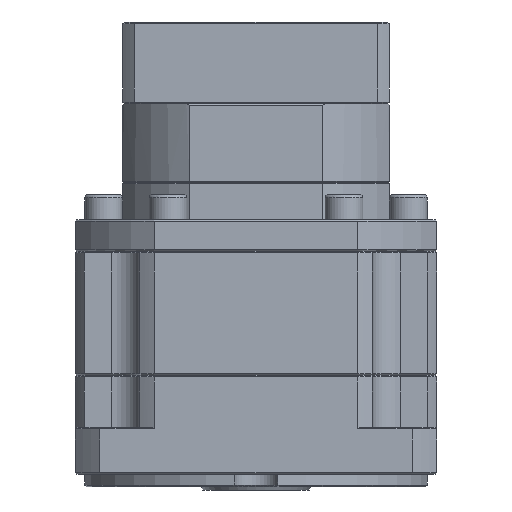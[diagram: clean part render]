
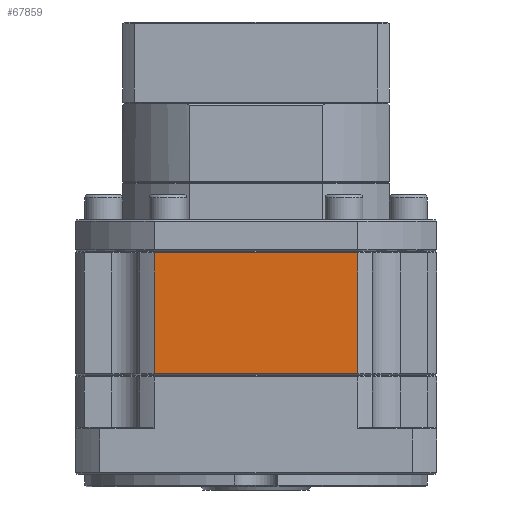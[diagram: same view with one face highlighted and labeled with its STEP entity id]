
A CAD part, left-side view. The second image highlights one B-rep face of the part: STEP entity #67859.
In plain terms, the highlighted planar face has unit normal (-1, 0, 0).
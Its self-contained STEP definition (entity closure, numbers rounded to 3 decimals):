
#1274 = VECTOR ( 'NONE', #113950, 1000. ) ;
#7363 = DIRECTION ( 'NONE',  ( 1., 0., 0. ) ) ;
#9672 = EDGE_CURVE ( 'NONE', #23211, #68918, #112334, .T. ) ;
#15366 = VERTEX_POINT ( 'NONE', #61986 ) ;
#16377 = VERTEX_POINT ( 'NONE', #24470 ) ;
#18638 = VECTOR ( 'NONE', #40380, 1000. ) ;
#19177 = CARTESIAN_POINT ( 'NONE',  ( -4.669, 44.285, -77.248 ) ) ;
#20134 = VECTOR ( 'NONE', #69648, 1000. ) ;
#21175 = CARTESIAN_POINT ( 'NONE',  ( -4.669, 44.285, -116.248 ) ) ;
#21302 = AXIS2_PLACEMENT_3D ( 'NONE', #130921, #7363, #108132 ) ;
#23211 = VERTEX_POINT ( 'NONE', #21175 ) ;
#24470 = CARTESIAN_POINT ( 'NONE',  ( -4.669, 44.285, -77.748 ) ) ;
#25203 = VECTOR ( 'NONE', #92561, 1000. ) ;
#40380 = DIRECTION ( 'NONE',  ( 0., -1., 0. ) ) ;
#51306 = EDGE_CURVE ( 'NONE', #68918, #15366, #132627, .T. ) ;
#57451 = CARTESIAN_POINT ( 'NONE',  ( -4.669, 109.085, -77.248 ) ) ;
#61986 = CARTESIAN_POINT ( 'NONE',  ( -4.669, 109.085, -77.748 ) ) ;
#67859 = ADVANCED_FACE ( 'NONE', ( #96004 ), #120651, .F. ) ;
#68918 = VERTEX_POINT ( 'NONE', #90683 ) ;
#69648 = DIRECTION ( 'NONE',  ( 0., 0., 1. ) ) ;
#76624 = LINE ( 'NONE', #81431, #18638 ) ;
#81431 = CARTESIAN_POINT ( 'NONE',  ( -4.669, 76.685, -77.748 ) ) ;
#90375 = CARTESIAN_POINT ( 'NONE',  ( -4.669, 19.185, -116.248 ) ) ;
#90488 = EDGE_CURVE ( 'NONE', #16377, #23211, #100929, .T. ) ;
#90683 = CARTESIAN_POINT ( 'NONE',  ( -4.669, 109.085, -116.248 ) ) ;
#91043 = ORIENTED_EDGE ( 'NONE', *, *, #9672, .F. ) ;
#92561 = DIRECTION ( 'NONE',  ( 0., 0., -1. ) ) ;
#92596 = ORIENTED_EDGE ( 'NONE', *, *, #51306, .F. ) ;
#96004 = FACE_OUTER_BOUND ( 'NONE', #127266, .T. ) ;
#100929 = LINE ( 'NONE', #19177, #25203 ) ;
#108132 = DIRECTION ( 'NONE',  ( 0., 1., 0. ) ) ;
#111672 = ORIENTED_EDGE ( 'NONE', *, *, #124116, .F. ) ;
#112334 = LINE ( 'NONE', #90375, #1274 ) ;
#113950 = DIRECTION ( 'NONE',  ( 0., 1., 0. ) ) ;
#120651 = PLANE ( 'NONE',  #21302 ) ;
#123822 = ORIENTED_EDGE ( 'NONE', *, *, #90488, .F. ) ;
#124116 = EDGE_CURVE ( 'NONE', #15366, #16377, #76624, .T. ) ;
#127266 = EDGE_LOOP ( 'NONE', ( #91043, #123822, #111672, #92596 ) ) ;
#130921 = CARTESIAN_POINT ( 'NONE',  ( -4.669, 19.185, -77.248 ) ) ;
#132627 = LINE ( 'NONE', #57451, #20134 ) ;
